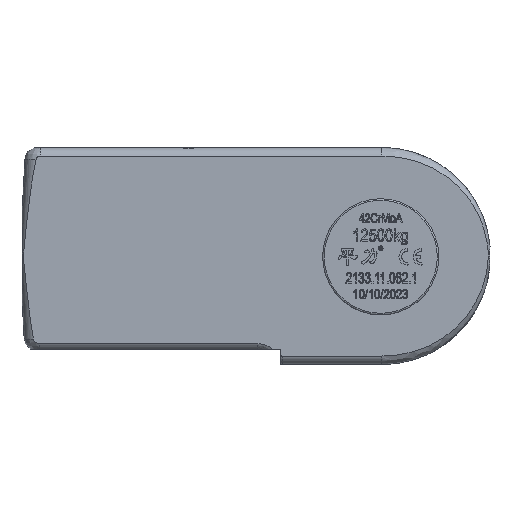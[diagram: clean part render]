
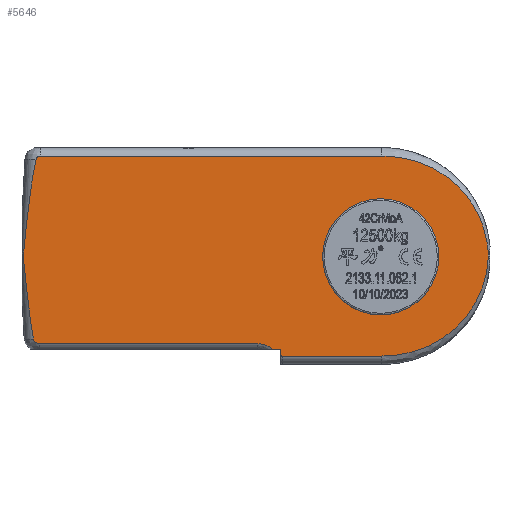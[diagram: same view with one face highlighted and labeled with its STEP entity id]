
A CAD part, front view. The second image highlights one B-rep face of the part: STEP entity #5646.
In plain terms, the highlighted planar face has unit normal (0, -1, 0).
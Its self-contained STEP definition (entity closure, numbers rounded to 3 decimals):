
#503=ELLIPSE('',#17827,191.335,10.);
#504=ELLIPSE('',#17828,191.335,10.);
#1438=B_SPLINE_CURVE_WITH_KNOTS('',3,(#22164,#22165,#22166,#22167,#22168,
#22169,#22170,#22171,#22172,#22173,#22174,#22175,#22176,#22177,#22178,#22179,
#22180,#22181),.UNSPECIFIED.,.F.,.F.,(4,2,2,2,2,2,2,2,4),(0.,0.125,0.25,
0.375,0.5,0.625,0.75,0.875,1.),.UNSPECIFIED.);
#1439=B_SPLINE_CURVE_WITH_KNOTS('',3,(#22183,#22184,#22185,#22186,#22187,
#22188,#22189,#22190,#22191,#22192,#22193,#22194,#22195,#22196,#22197,#22198),
 .UNSPECIFIED.,.F.,.F.,(4,2,2,2,2,2,2,4),(0.,0.125,0.25,0.5,
0.625,0.75,0.875,1.),.UNSPECIFIED.);
#1440=B_SPLINE_CURVE_WITH_KNOTS('',3,(#22202,#22203,#22204,#22205,#22206,
#22207,#22208,#22209,#22210,#22211,#22212,#22213,#22214,#22215,#22216,#22217),
 .UNSPECIFIED.,.F.,.F.,(4,3,3,3,3,4),(0.,0.185,0.414,
0.647,0.906,1.),.UNSPECIFIED.);
#1441=B_SPLINE_CURVE_WITH_KNOTS('',3,(#22223,#22224,#22225,#22226,#22227,
#22228),.UNSPECIFIED.,.F.,.F.,(4,2,4),(0.,0.5,1.),.UNSPECIFIED.);
#1442=B_SPLINE_CURVE_WITH_KNOTS('',3,(#22232,#22233,#22234,#22235),
 .UNSPECIFIED.,.F.,.F.,(4,4),(0.,1.),.UNSPECIFIED.);
#2888=LINE('',#22158,#4024);
#2889=LINE('',#22161,#4025);
#2890=LINE('',#22162,#4026);
#2891=LINE('',#22200,#4027);
#2892=LINE('',#22230,#4028);
#4024=VECTOR('',#18782,1.);
#4025=VECTOR('',#18783,1.);
#4026=VECTOR('',#18784,1.);
#4027=VECTOR('',#18785,1.);
#4028=VECTOR('',#18790,1.);
#5646=ADVANCED_FACE('',(#7054,#7055),#6604,.T.);
#6604=PLANE('',#17829);
#7054=FACE_BOUND('',#7327,.T.);
#7055=FACE_BOUND('',#7328,.T.);
#7327=EDGE_LOOP('',(#8572));
#7328=EDGE_LOOP('',(#8573,#8574,#8575,#8576,#8577,#8578,#8579,#8580,#8581,
#8582,#8583,#8584,#8585));
#8572=ORIENTED_EDGE('',*,*,#15174,.F.);
#8573=ORIENTED_EDGE('',*,*,#15175,.F.);
#8574=ORIENTED_EDGE('',*,*,#15176,.T.);
#8575=ORIENTED_EDGE('',*,*,#15139,.F.);
#8576=ORIENTED_EDGE('',*,*,#15177,.F.);
#8577=ORIENTED_EDGE('',*,*,#15178,.F.);
#8578=ORIENTED_EDGE('',*,*,#15179,.F.);
#8579=ORIENTED_EDGE('',*,*,#15180,.F.);
#8580=ORIENTED_EDGE('',*,*,#15181,.F.);
#8581=ORIENTED_EDGE('',*,*,#15182,.F.);
#8582=ORIENTED_EDGE('',*,*,#15183,.F.);
#8583=ORIENTED_EDGE('',*,*,#15184,.F.);
#8584=ORIENTED_EDGE('',*,*,#15185,.F.);
#8585=ORIENTED_EDGE('',*,*,#15186,.F.);
#13479=VERTEX_POINT('',#22056);
#13480=VERTEX_POINT('',#22057);
#13506=VERTEX_POINT('',#22157);
#13507=VERTEX_POINT('',#22159);
#13508=VERTEX_POINT('',#22160);
#13509=VERTEX_POINT('',#22163);
#13510=VERTEX_POINT('',#22182);
#13511=VERTEX_POINT('',#22199);
#13512=VERTEX_POINT('',#22201);
#13513=VERTEX_POINT('',#22218);
#13514=VERTEX_POINT('',#22220);
#13515=VERTEX_POINT('',#22222);
#13516=VERTEX_POINT('',#22229);
#13517=VERTEX_POINT('',#22231);
#15139=EDGE_CURVE('',#13479,#13480,#17565,.T.);
#15174=EDGE_CURVE('',#13506,#13506,#17577,.T.);
#15175=EDGE_CURVE('',#13507,#13508,#2888,.T.);
#15176=EDGE_CURVE('',#13507,#13480,#2889,.T.);
#15177=EDGE_CURVE('',#13509,#13479,#2890,.T.);
#15178=EDGE_CURVE('',#13510,#13509,#1438,.T.);
#15179=EDGE_CURVE('',#13511,#13510,#1439,.T.);
#15180=EDGE_CURVE('',#13512,#13511,#2891,.T.);
#15181=EDGE_CURVE('',#13513,#13512,#1440,.T.);
#15182=EDGE_CURVE('',#13514,#13513,#503,.T.);
#15183=EDGE_CURVE('',#13515,#13514,#504,.T.);
#15184=EDGE_CURVE('',#13516,#13515,#1441,.T.);
#15185=EDGE_CURVE('',#13517,#13516,#2892,.T.);
#15186=EDGE_CURVE('',#13508,#13517,#1442,.T.);
#17565=CIRCLE('',#17803,2.523);
#17577=CIRCLE('',#17826,31.);
#17803=AXIS2_PLACEMENT_3D('',#22055,#18717,#18718);
#17826=AXIS2_PLACEMENT_3D('',#22156,#18780,#18781);
#17827=AXIS2_PLACEMENT_3D('',#22219,#18786,#18787);
#17828=AXIS2_PLACEMENT_3D('',#22221,#18788,#18789);
#17829=AXIS2_PLACEMENT_3D('',#22236,#18791,#18792);
#18717=DIRECTION('',(0.,1.,0.));
#18718=DIRECTION('',(1.,0.,0.));
#18780=DIRECTION('',(0.,-1.,0.));
#18781=DIRECTION('',(1.,0.,0.));
#18782=DIRECTION('',(-1.,0.,0.));
#18783=DIRECTION('',(0.,0.,-1.));
#18784=DIRECTION('',(-1.,0.,0.));
#18785=DIRECTION('',(1.,0.,0.));
#18786=DIRECTION('',(0.,1.,0.));
#18787=DIRECTION('',(0.052,0.,0.999));
#18788=DIRECTION('',(0.,1.,0.));
#18789=DIRECTION('',(-0.052,0.,0.999));
#18790=DIRECTION('',(-1.,0.,0.));
#18791=DIRECTION('',(0.,-1.,0.));
#18792=DIRECTION('',(1.,0.,0.));
#22055=CARTESIAN_POINT('',(18.412,-100.,8.));
#22056=CARTESIAN_POINT('',(18.412,-100.,5.477));
#22057=CARTESIAN_POINT('',(17.5,-100.,5.647));
#22156=CARTESIAN_POINT('',(82.548,-100.,69.977));
#22157=CARTESIAN_POINT('',(113.548,-100.,69.977));
#22158=CARTESIAN_POINT('',(152.5,-100.,10.));
#22159=CARTESIAN_POINT('',(17.5,-100.,10.));
#22160=CARTESIAN_POINT('',(11.997,-100.,10.));
#22161=CARTESIAN_POINT('',(17.5,-100.,170.));
#22162=CARTESIAN_POINT('',(83.544,-100.,5.477));
#22163=CARTESIAN_POINT('',(82.748,-100.,5.477));
#22164=CARTESIAN_POINT('',(151.47,-100.,70.));
#22165=CARTESIAN_POINT('',(151.337,-100.,65.616));
#22166=CARTESIAN_POINT('',(150.775,-100.,61.291));
#22167=CARTESIAN_POINT('',(148.796,-100.,52.762));
#22168=CARTESIAN_POINT('',(147.385,-100.,48.611));
#22169=CARTESIAN_POINT('',(143.805,-100.,40.724));
#22170=CARTESIAN_POINT('',(141.612,-100.,36.931));
#22171=CARTESIAN_POINT('',(136.495,-100.,29.832));
#22172=CARTESIAN_POINT('',(133.622,-100.,26.587));
#22173=CARTESIAN_POINT('',(127.264,-100.,20.685));
#22174=CARTESIAN_POINT('',(123.738,-100.,18.009));
#22175=CARTESIAN_POINT('',(116.329,-100.,13.459));
#22176=CARTESIAN_POINT('',(112.433,-100.,11.56));
#22177=CARTESIAN_POINT('',(104.268,-100.,8.5));
#22178=CARTESIAN_POINT('',(100.013,-100.,7.354));
#22179=CARTESIAN_POINT('',(91.466,-100.,5.851));
#22180=CARTESIAN_POINT('',(87.135,-100.,5.477));
#22181=CARTESIAN_POINT('',(82.748,-100.,5.477));
#22182=CARTESIAN_POINT('',(151.47,-100.,70.));
#22183=CARTESIAN_POINT('',(82.748,-100.,134.523));
#22184=CARTESIAN_POINT('',(87.137,-100.,134.523));
#22185=CARTESIAN_POINT('',(91.486,-100.,134.149));
#22186=CARTESIAN_POINT('',(100.102,-100.,132.627));
#22187=CARTESIAN_POINT('',(104.34,-100.,131.476));
#22188=CARTESIAN_POINT('',(116.5,-100.,126.909));
#22189=CARTESIAN_POINT('',(124.114,-100.,122.242));
#22190=CARTESIAN_POINT('',(133.625,-100.,113.409));
#22191=CARTESIAN_POINT('',(136.536,-100.,110.117));
#22192=CARTESIAN_POINT('',(141.64,-100.,103.023));
#22193=CARTESIAN_POINT('',(143.809,-100.,99.271));
#22194=CARTESIAN_POINT('',(147.394,-100.,91.365));
#22195=CARTESIAN_POINT('',(148.815,-100.,87.17));
#22196=CARTESIAN_POINT('',(150.776,-100.,78.694));
#22197=CARTESIAN_POINT('',(151.337,-100.,74.384));
#22198=CARTESIAN_POINT('',(151.47,-100.,70.));
#22199=CARTESIAN_POINT('',(82.748,-100.,134.523));
#22200=CARTESIAN_POINT('',(-142.154,-100.,134.523));
#22201=CARTESIAN_POINT('',(-137.663,-100.,134.523));
#22202=CARTESIAN_POINT('',(-140.432,-100.,132.518));
#22203=CARTESIAN_POINT('',(-140.38,-100.,132.738));
#22204=CARTESIAN_POINT('',(-140.295,-100.,132.952));
#22205=CARTESIAN_POINT('',(-140.183,-100.,133.148));
#22206=CARTESIAN_POINT('',(-140.044,-100.,133.391));
#22207=CARTESIAN_POINT('',(-139.86,-100.,133.612));
#22208=CARTESIAN_POINT('',(-139.65,-100.,133.797));
#22209=CARTESIAN_POINT('',(-139.436,-100.,133.985));
#22210=CARTESIAN_POINT('',(-139.19,-100.,134.14));
#22211=CARTESIAN_POINT('',(-138.93,-100.,134.256));
#22212=CARTESIAN_POINT('',(-138.64,-100.,134.385));
#22213=CARTESIAN_POINT('',(-138.326,-100.,134.469));
#22214=CARTESIAN_POINT('',(-138.01,-100.,134.504));
#22215=CARTESIAN_POINT('',(-137.895,-100.,134.517));
#22216=CARTESIAN_POINT('',(-137.779,-100.,134.523));
#22217=CARTESIAN_POINT('',(-137.663,-100.,134.523));
#22218=CARTESIAN_POINT('',(-140.432,-100.,132.519));
#22219=CARTESIAN_POINT('',(-147.252,-100.,-51.073));
#22220=CARTESIAN_POINT('',(-148.671,-100.,70.));
#22221=CARTESIAN_POINT('',(-147.252,-100.,191.073));
#22222=CARTESIAN_POINT('',(-142.19,-100.,16.447));
#22223=CARTESIAN_POINT('',(-138.135,-100.,13.352));
#22224=CARTESIAN_POINT('',(-139.064,-100.,13.352));
#22225=CARTESIAN_POINT('',(-139.984,-100.,13.626));
#22226=CARTESIAN_POINT('',(-141.489,-100.,14.719));
#22227=CARTESIAN_POINT('',(-142.033,-100.,15.527));
#22228=CARTESIAN_POINT('',(-142.19,-100.,16.448));
#22229=CARTESIAN_POINT('',(-138.135,-100.,13.352));
#22230=CARTESIAN_POINT('',(3.581,-100.,13.352));
#22231=CARTESIAN_POINT('',(2.784,-100.,13.352));
#22232=CARTESIAN_POINT('',(11.997,-100.,10.));
#22233=CARTESIAN_POINT('',(9.404,-100.,12.139));
#22234=CARTESIAN_POINT('',(6.154,-100.,13.352));
#22235=CARTESIAN_POINT('',(2.784,-100.,13.352));
#22236=CARTESIAN_POINT('',(152.5,-100.,170.));
